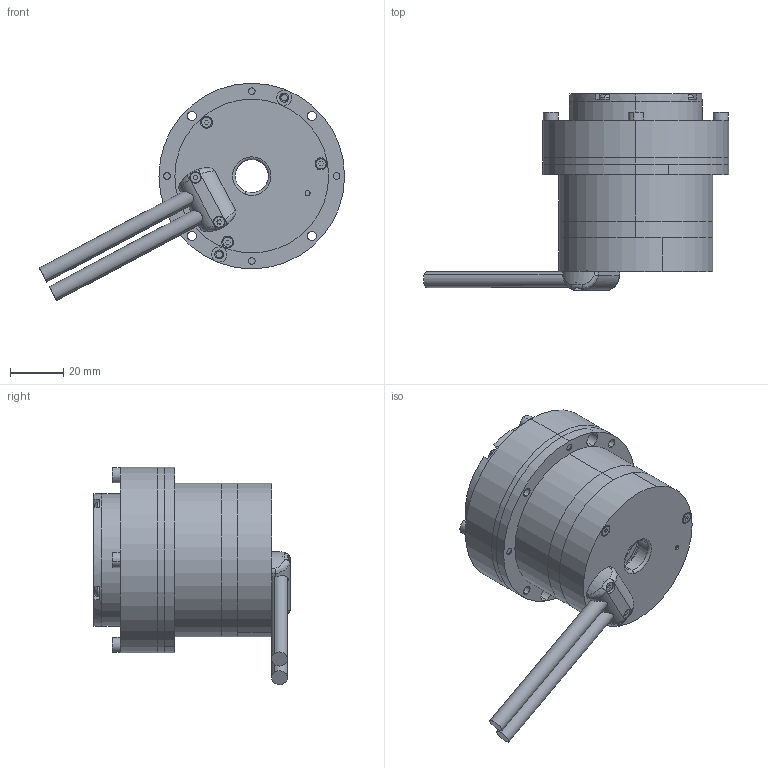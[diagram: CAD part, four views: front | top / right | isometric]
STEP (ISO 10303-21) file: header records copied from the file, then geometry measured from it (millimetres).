
FILE_DESCRIPTION (( 'STEP AP214' ), '1' );
FILE_NAME ('RH-14_B.STEP', '2024-05-21T13:47:42', ( '' ), ( '' ), 'SwSTEP 2.0', 'SolidWorks 2020', '' );
FILE_SCHEMA (( 'AUTOMOTIVE_DESIGN' ));
Length unit declared in the file: millimetre
Products named in the file (1): RH-14_B
Bounding box: 115.08 x 74 x 82.01 mm (x, y, z)
Surface area: 43986.8 mm2 (no closed solid volume)
Topology: 0 solids, 192 shells, 522 faces, 2216 edges, 1888 vertices
Faces by surface type: plane 263, cylinder 159, bspline 74, torus 14, cone 6, sphere 6
Entity records: 31344 total; most frequent: CARTESIAN_POINT 8187, DIRECTION 3313, ORIENTED_EDGE 2898, EDGE_CURVE 2210, VERTEX_POINT 1888, VECTOR 1185, LINE 1185, AXIS2_PLACEMENT_3D 1064
